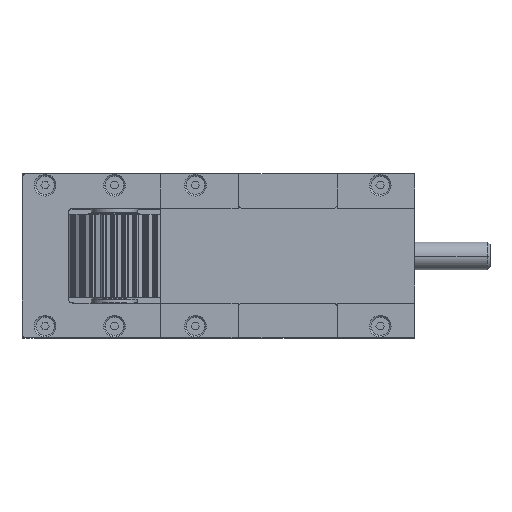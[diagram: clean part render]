
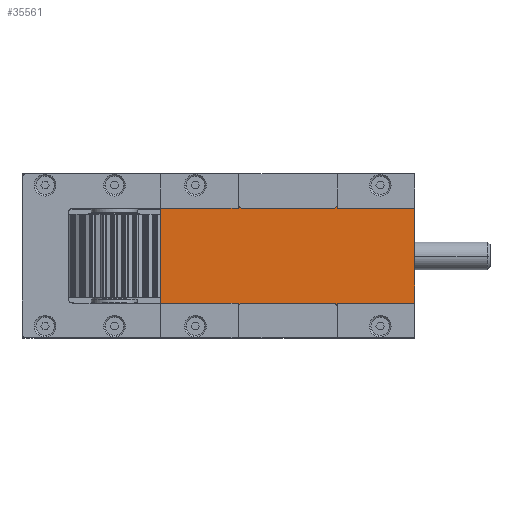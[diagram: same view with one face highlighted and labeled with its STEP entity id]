
A CAD part, top view. The second image highlights one B-rep face of the part: STEP entity #35561.
In plain terms, the highlighted planar face has unit normal (0, 0, 1) as drawn and (0, 1, 0) by its records, which use the part's own axes.
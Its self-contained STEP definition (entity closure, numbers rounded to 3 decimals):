
#258 = CARTESIAN_POINT ( 'NONE',  ( 13., -0.3, 118.5 ) ) ;
#405 = DIRECTION ( 'NONE',  ( 0., -1., 0. ) ) ;
#945 = CARTESIAN_POINT ( 'NONE',  ( 15., -0.3, 154. ) ) ;
#1012 = CARTESIAN_POINT ( 'NONE',  ( 15., -0.3, 150. ) ) ;
#1356 = DIRECTION ( 'NONE',  ( -1., 0., 0. ) ) ;
#1490 = DIRECTION ( 'NONE',  ( 1., 0., 0. ) ) ;
#1886 = EDGE_CURVE ( 'NONE', #32787, #39008, #17979, .T. ) ;
#2104 = CARTESIAN_POINT ( 'NONE',  ( 56., -0.3, 44. ) ) ;
#2165 = EDGE_CURVE ( 'NONE', #35279, #25380, #27175, .T. ) ;
#2170 = LINE ( 'NONE', #15427, #20534 ) ;
#2831 = AXIS2_PLACEMENT_3D ( 'NONE', #18290, #33730, #15191 ) ;
#2984 = DIRECTION ( 'NONE',  ( 0., -1., 0. ) ) ;
#3282 = LINE ( 'NONE', #9933, #30884 ) ;
#3832 = ORIENTED_EDGE ( 'NONE', *, *, #25743, .T. ) ;
#4023 = CARTESIAN_POINT ( 'NONE',  ( 56., -0.3, 150. ) ) ;
#4046 = LINE ( 'NONE', #36290, #28246 ) ;
#4170 = VERTEX_POINT ( 'NONE', #8545 ) ;
#4852 = EDGE_CURVE ( 'NONE', #39537, #38709, #3282, .T. ) ;
#4865 = CARTESIAN_POINT ( 'NONE',  ( 15., -0.3, 150. ) ) ;
#5627 = CARTESIAN_POINT ( 'NONE',  ( 13., -0.3, 120.5 ) ) ;
#5975 = VECTOR ( 'NONE', #10893, 1000. ) ;
#6092 = CARTESIAN_POINT ( 'NONE',  ( 58., -0.3, 79.5 ) ) ;
#6183 = EDGE_CURVE ( 'NONE', #32936, #25380, #22533, .T. ) ;
#6360 = DIRECTION ( 'NONE',  ( 1., 0., 0. ) ) ;
#6556 = DIRECTION ( 'NONE',  ( 0., 0., -1. ) ) ;
#6756 = CARTESIAN_POINT ( 'NONE',  ( 15., -0.3, 118.5 ) ) ;
#6930 = ORIENTED_EDGE ( 'NONE', *, *, #16055, .F. ) ;
#7218 = EDGE_CURVE ( 'NONE', #32787, #33046, #37962, .T. ) ;
#7418 = VERTEX_POINT ( 'NONE', #5627 ) ;
#7436 = VECTOR ( 'NONE', #1356, 1000. ) ;
#7497 = LINE ( 'NONE', #1012, #26359 ) ;
#7760 = CARTESIAN_POINT ( 'NONE',  ( 15.5, -0.3, 77.5 ) ) ;
#8139 = CIRCLE ( 'NONE', #13528, 2. ) ;
#8545 = CARTESIAN_POINT ( 'NONE',  ( 15., -0.3, 44. ) ) ;
#8688 = CARTESIAN_POINT ( 'NONE',  ( 15., -0.3, 120.5 ) ) ;
#9405 = CIRCLE ( 'NONE', #38747, 2. ) ;
#9933 = CARTESIAN_POINT ( 'NONE',  ( 56., -0.3, 150. ) ) ;
#10301 = CARTESIAN_POINT ( 'NONE',  ( 56., -0.3, 118.5 ) ) ;
#10350 = DIRECTION ( 'NONE',  ( 0., 0., -1. ) ) ;
#10544 = VECTOR ( 'NONE', #34961, 1000. ) ;
#10893 = DIRECTION ( 'NONE',  ( 1., 0., 0. ) ) ;
#11628 = DIRECTION ( 'NONE',  ( -1., 0., 0. ) ) ;
#12153 = VECTOR ( 'NONE', #26073, 1000. ) ;
#12382 = DIRECTION ( 'NONE',  ( 0., -1., 0. ) ) ;
#12536 = EDGE_CURVE ( 'NONE', #39843, #31826, #7497, .T. ) ;
#12634 = VECTOR ( 'NONE', #33759, 1000. ) ;
#12656 = CARTESIAN_POINT ( 'NONE',  ( 56., -0.3, 79.5 ) ) ;
#12905 = AXIS2_PLACEMENT_3D ( 'NONE', #33917, #12382, #24567 ) ;
#13362 = CARTESIAN_POINT ( 'NONE',  ( 58., -0.3, 120.5 ) ) ;
#13528 = AXIS2_PLACEMENT_3D ( 'NONE', #25604, #16396, #38051 ) ;
#13729 = ORIENTED_EDGE ( 'NONE', *, *, #12536, .F. ) ;
#14615 = LINE ( 'NONE', #4023, #17984 ) ;
#14639 = VECTOR ( 'NONE', #38841, 1000. ) ;
#14756 = FACE_OUTER_BOUND ( 'NONE', #20147, .T. ) ;
#14761 = EDGE_CURVE ( 'NONE', #29902, #4170, #22360, .T. ) ;
#14904 = LINE ( 'NONE', #38612, #10544 ) ;
#15191 = DIRECTION ( 'NONE',  ( 1., 0., 0. ) ) ;
#15427 = CARTESIAN_POINT ( 'NONE',  ( 15.5, -0.3, 44. ) ) ;
#15521 = CARTESIAN_POINT ( 'NONE',  ( 56., -0.3, 77.5 ) ) ;
#15593 = CARTESIAN_POINT ( 'NONE',  ( 15., -0.3, 79.5 ) ) ;
#15967 = VERTEX_POINT ( 'NONE', #10301 ) ;
#16055 = EDGE_CURVE ( 'NONE', #35422, #38709, #39895, .T. ) ;
#16226 = EDGE_CURVE ( 'NONE', #31826, #7418, #4046, .T. ) ;
#16335 = LINE ( 'NONE', #7760, #25547 ) ;
#16396 = DIRECTION ( 'NONE',  ( 0., -1., 0. ) ) ;
#17156 = VERTEX_POINT ( 'NONE', #12656 ) ;
#17979 = LINE ( 'NONE', #34874, #12153 ) ;
#17984 = VECTOR ( 'NONE', #19296, 1000. ) ;
#18290 = CARTESIAN_POINT ( 'NONE',  ( 13., -0.3, 79.5 ) ) ;
#18453 = CARTESIAN_POINT ( 'NONE',  ( 15., -0.3, 150. ) ) ;
#19296 = DIRECTION ( 'NONE',  ( 0., 0., -1. ) ) ;
#19901 = CARTESIAN_POINT ( 'NONE',  ( 71., -0.3, 120.5 ) ) ;
#20147 = EDGE_LOOP ( 'NONE', ( #36595, #32982, #36652, #20488, #30022, #31578, #30030, #20236, #13729, #29175, #21134, #6930, #3832, #35235, #35957, #39927 ) ) ;
#20236 = ORIENTED_EDGE ( 'NONE', *, *, #16226, .F. ) ;
#20488 = ORIENTED_EDGE ( 'NONE', *, *, #20789, .F. ) ;
#20534 = VECTOR ( 'NONE', #34235, 1000. ) ;
#20789 = EDGE_CURVE ( 'NONE', #32936, #29902, #16335, .T. ) ;
#20795 = EDGE_CURVE ( 'NONE', #39537, #39843, #14904, .T. ) ;
#20818 = CARTESIAN_POINT ( 'NONE',  ( 15., -0.3, 77.5 ) ) ;
#20867 = EDGE_CURVE ( 'NONE', #17156, #33046, #40058, .T. ) ;
#21134 = ORIENTED_EDGE ( 'NONE', *, *, #4852, .T. ) ;
#22360 = LINE ( 'NONE', #4865, #14639 ) ;
#22533 = CIRCLE ( 'NONE', #2831, 2. ) ;
#22812 = EDGE_CURVE ( 'NONE', #35279, #7418, #9405, .T. ) ;
#22831 = CARTESIAN_POINT ( 'NONE',  ( 56., -0.3, 120.5 ) ) ;
#23986 = CARTESIAN_POINT ( 'NONE',  ( 56., -0.3, 154. ) ) ;
#24567 = DIRECTION ( 'NONE',  ( 1., 0., 0. ) ) ;
#25380 = VERTEX_POINT ( 'NONE', #15593 ) ;
#25547 = VECTOR ( 'NONE', #1490, 1000. ) ;
#25590 = DIRECTION ( 'NONE',  ( 1., 0., 0. ) ) ;
#25604 = CARTESIAN_POINT ( 'NONE',  ( 58., -0.3, 118.5 ) ) ;
#25743 = EDGE_CURVE ( 'NONE', #35422, #15967, #8139, .T. ) ;
#25997 = AXIS2_PLACEMENT_3D ( 'NONE', #6092, #2984, #6360 ) ;
#26073 = DIRECTION ( 'NONE',  ( 0., 0., -1. ) ) ;
#26359 = VECTOR ( 'NONE', #10350, 1000. ) ;
#27175 = LINE ( 'NONE', #18453, #12634 ) ;
#28246 = VECTOR ( 'NONE', #11628, 1000. ) ;
#28507 = EDGE_CURVE ( 'NONE', #39008, #4170, #2170, .T. ) ;
#29175 = ORIENTED_EDGE ( 'NONE', *, *, #20795, .F. ) ;
#29868 = CARTESIAN_POINT ( 'NONE',  ( 71., -0.3, 77.5 ) ) ;
#29902 = VERTEX_POINT ( 'NONE', #20818 ) ;
#30022 = ORIENTED_EDGE ( 'NONE', *, *, #6183, .T. ) ;
#30030 = ORIENTED_EDGE ( 'NONE', *, *, #22812, .T. ) ;
#30884 = VECTOR ( 'NONE', #6556, 1000. ) ;
#31037 = EDGE_CURVE ( 'NONE', #15967, #17156, #14615, .T. ) ;
#31480 = CARTESIAN_POINT ( 'NONE',  ( 13., -0.3, 77.5 ) ) ;
#31578 = ORIENTED_EDGE ( 'NONE', *, *, #2165, .F. ) ;
#31826 = VERTEX_POINT ( 'NONE', #8688 ) ;
#32787 = VERTEX_POINT ( 'NONE', #15521 ) ;
#32936 = VERTEX_POINT ( 'NONE', #31480 ) ;
#32982 = ORIENTED_EDGE ( 'NONE', *, *, #28507, .T. ) ;
#33046 = VERTEX_POINT ( 'NONE', #37506 ) ;
#33117 = PLANE ( 'NONE',  #12905 ) ;
#33730 = DIRECTION ( 'NONE',  ( 0., -1., 0. ) ) ;
#33759 = DIRECTION ( 'NONE',  ( 0., 0., -1. ) ) ;
#33917 = CARTESIAN_POINT ( 'NONE',  ( 15.5, -0.3, 150. ) ) ;
#34235 = DIRECTION ( 'NONE',  ( -1., 0., 0. ) ) ;
#34874 = CARTESIAN_POINT ( 'NONE',  ( 56., -0.3, 150. ) ) ;
#34961 = DIRECTION ( 'NONE',  ( -1., 0., 0. ) ) ;
#35235 = ORIENTED_EDGE ( 'NONE', *, *, #31037, .T. ) ;
#35279 = VERTEX_POINT ( 'NONE', #6756 ) ;
#35422 = VERTEX_POINT ( 'NONE', #13362 ) ;
#35561 = ADVANCED_FACE ( 'NONE', ( #14756 ), #33117, .F. ) ;
#35957 = ORIENTED_EDGE ( 'NONE', *, *, #20867, .T. ) ;
#36290 = CARTESIAN_POINT ( 'NONE',  ( 15.5, -0.3, 120.5 ) ) ;
#36595 = ORIENTED_EDGE ( 'NONE', *, *, #1886, .T. ) ;
#36652 = ORIENTED_EDGE ( 'NONE', *, *, #14761, .F. ) ;
#37506 = CARTESIAN_POINT ( 'NONE',  ( 58., -0.3, 77.5 ) ) ;
#37962 = LINE ( 'NONE', #29868, #5975 ) ;
#38051 = DIRECTION ( 'NONE',  ( 1., 0., 0. ) ) ;
#38612 = CARTESIAN_POINT ( 'NONE',  ( 15.5, -0.3, 154. ) ) ;
#38709 = VERTEX_POINT ( 'NONE', #22831 ) ;
#38747 = AXIS2_PLACEMENT_3D ( 'NONE', #258, #405, #25590 ) ;
#38841 = DIRECTION ( 'NONE',  ( 0., 0., -1. ) ) ;
#39008 = VERTEX_POINT ( 'NONE', #2104 ) ;
#39537 = VERTEX_POINT ( 'NONE', #23986 ) ;
#39843 = VERTEX_POINT ( 'NONE', #945 ) ;
#39895 = LINE ( 'NONE', #19901, #7436 ) ;
#39927 = ORIENTED_EDGE ( 'NONE', *, *, #7218, .F. ) ;
#40058 = CIRCLE ( 'NONE', #25997, 2. ) ;
